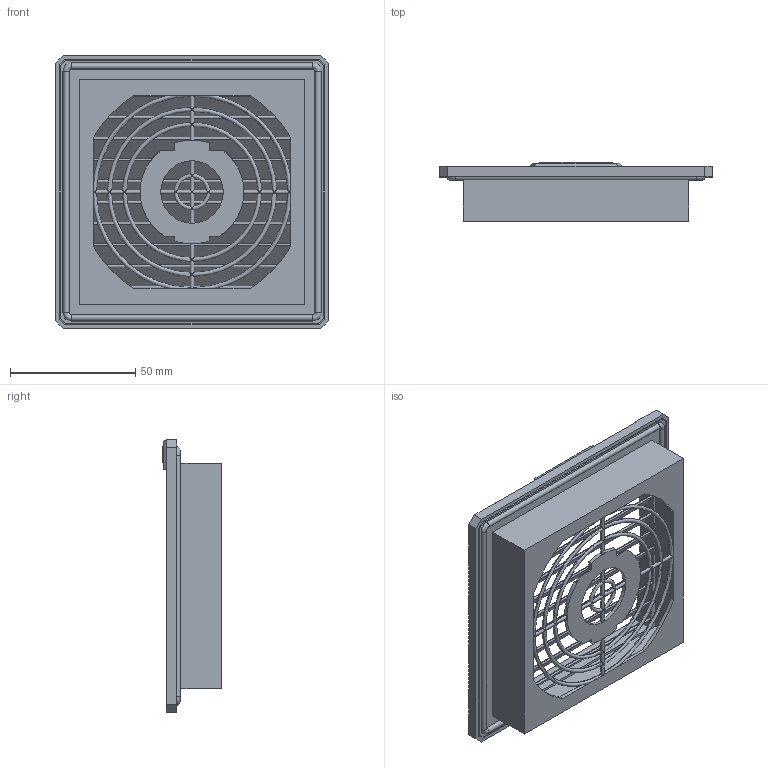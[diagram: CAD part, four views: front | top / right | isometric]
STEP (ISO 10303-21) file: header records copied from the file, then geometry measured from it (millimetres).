
FILE_DESCRIPTION (( 'STEP AP214' ), '1' );
FILE_NAME ('PFA 10000.STEP', '2007-05-30T09:55:43', ( 'Pfannenberg' ), ( 'Pfannenberg Group' ), 'SwSTEP 2.0', 'SolidWorks 2007', '' );
FILE_SCHEMA (( 'AUTOMOTIVE_DESIGN' ));
Length unit declared in the file: millimetre
Products named in the file (4): housing PF1x_Standard; 30162-013_Standard; cover PF1x_Standard; PFA 10000
Assembly tree (3 placements, depth 2):
  PFA 10000
    cover PF1x_Standard
    30162-013_Standard
    housing PF1x_Standard
Bounding box: 109 x 23.44 x 109 mm (x, y, z)
Volume: 47100.5 mm3; surface area: 68872.1 mm2
Topology: 3 solids, 3 shells, 1148 faces, 3156 edges, 2020 vertices
Faces by surface type: plane 574, cylinder 302, bspline 236, torus 36
Entity records: 47985 total; most frequent: CARTESIAN_POINT 20904, ORIENTED_EDGE 6312, DIRECTION 4446, EDGE_CURVE 3156, VERTEX_POINT 2020, LINE 1758, VECTOR 1758, AXIS2_PLACEMENT_3D 1344
